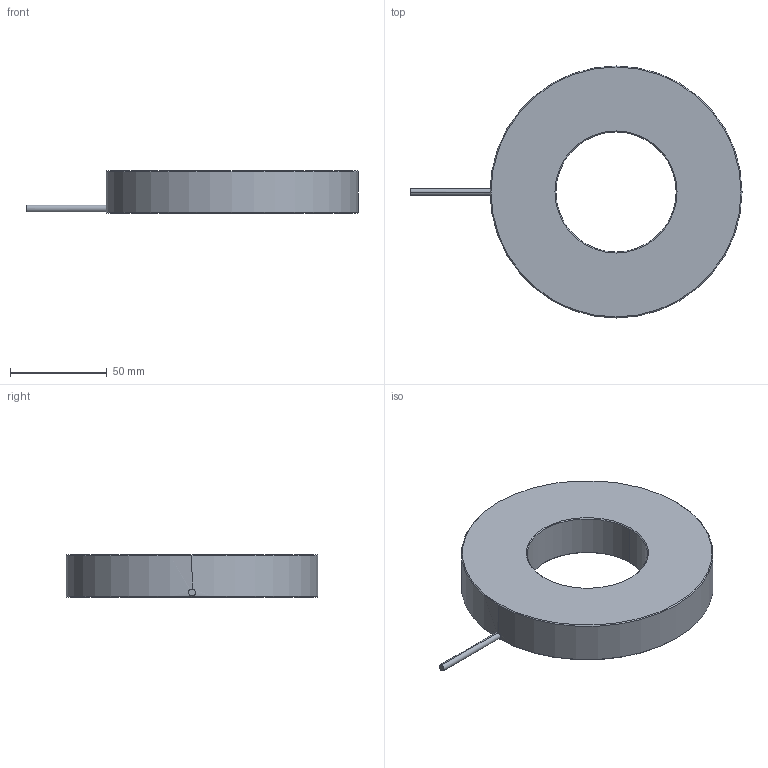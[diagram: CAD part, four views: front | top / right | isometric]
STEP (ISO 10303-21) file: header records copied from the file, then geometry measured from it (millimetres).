
FILE_DESCRIPTION((''),'2;1');
FILE_NAME('P-RL-130-90-3D','2020-03-27T',('rs-zhongwm'),(''),'PRO/ENGINEER BY PARAMETRIC TECHNOLOGY CORPORATION, 2010100','PRO/ENGINEER BY PARAMETRIC TECHNOLOGY CORPORATION, 2010100','');
FILE_SCHEMA(('CONFIG_CONTROL_DESIGN'));
Length unit declared in the file: millimetre
Products named in the file (1): P-RL-130-90-3D
Bounding box: 171.29 x 130 x 22 mm (x, y, z)
Volume: 225774.2 mm3; surface area: 34098.5 mm2
Topology: 1 solids, 5 shells, 45 faces, 107 edges, 64 vertices
Faces by surface type: cylinder 22, cone 16, plane 7
Entity records: 1320 total; most frequent: DIRECTION 247, CARTESIAN_POINT 231, ORIENTED_EDGE 182, AXIS2_PLACEMENT_3D 104, EDGE_CURVE 99, VERTEX_POINT 64, CIRCLE 58, EDGE_LOOP 55
